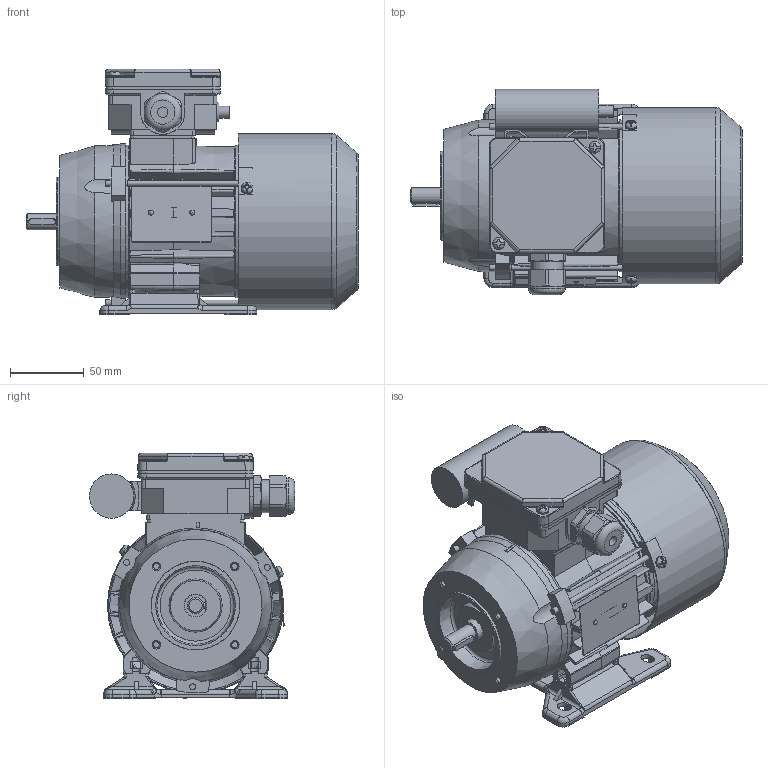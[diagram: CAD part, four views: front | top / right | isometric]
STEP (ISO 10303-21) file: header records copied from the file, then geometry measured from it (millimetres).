
FILE_DESCRIPTION(/* description */ ('Unknown'),/* implementation_level */ '2;1');
FILE_NAME(/* name */ '3SSIEL63-4A2',/* time_stamp */ '2024-06-17T09:24:46+02:00',/* author */ ('Unknown'),/* organization */ ('Unknown'),/* preprocessor_version */ 'ST-DEVELOPER v16.7',/* originating_system */ 'Solid Edge',/* authorisation */ 'Unknown');
FILE_SCHEMA (('AUTOMOTIVE_DESIGN {1 0 10303 214 3 1 1}'));
Length unit declared in the file: millimetre
Products named in the file (1): Czêœæ7
Bounding box: 224.49 x 138.82 x 166 mm (x, y, z)
Volume: 584356 mm3; surface area: 357309.4 mm2
Topology: 3 solids, 3 shells, 2406 faces, 6758 edges, 4378 vertices
Faces by surface type: plane 1243, cylinder 594, cone 279, bspline 137, torus 132, sphere 21
Full cylindrical faces by diameter (mm): 2.4 x2, 3 x1, 3.7 x7, 4 x8, 4.134 x4, 4.5 x5, 4.6 x1, 4.8 x2, 5 x2, 6.5 x1, 7 x4, 7.999 x1, 8 x6, 10.999 x1, 12.899 x1, 13.099 x1, 14.998 x2, 15.4 x2, 18.998 x2, 19.498 x1, 19.998 x1, 20.098 x1, 21.518 x4, 22.3 x1, 25 x1, 28 x2, 28.48 x4, 29.997 x1, 31 x2, 35 x3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
Entity records: 96689 total; most frequent: CARTESIAN_POINT 19852, ORIENTED_EDGE 12842, DIRECTION 12015, EDGE_CURVE 6421, AXIS2_PLACEMENT_3D 4340, VERTEX_POINT 4259, LINE 3335, VECTOR 3335
